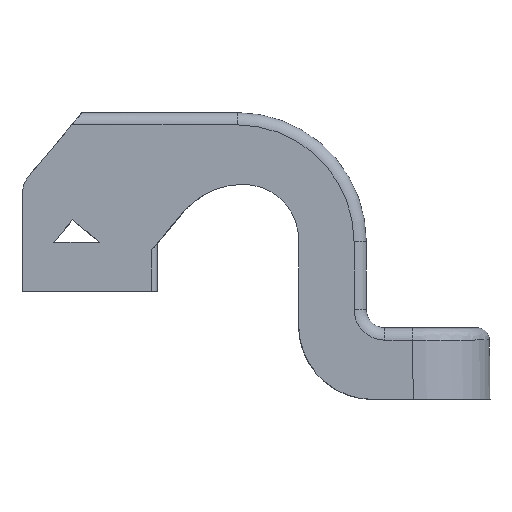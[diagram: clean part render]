
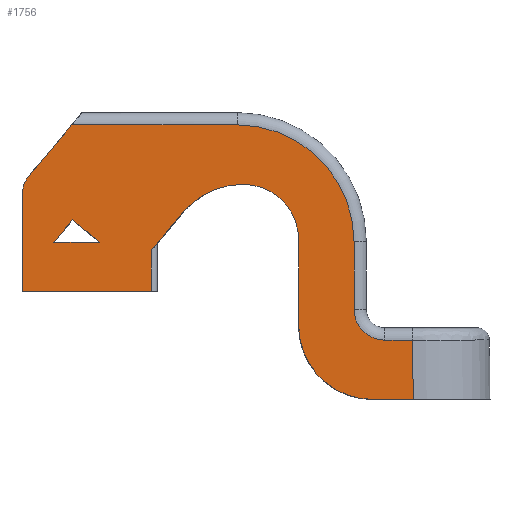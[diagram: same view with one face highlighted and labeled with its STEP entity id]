
A CAD part, front view. The second image highlights one B-rep face of the part: STEP entity #1756.
In plain terms, the highlighted planar face has unit normal (0, -1, 0).
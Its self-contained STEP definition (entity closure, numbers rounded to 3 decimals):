
#76=FACE_BOUND('',#222,.T.);
#84=PLANE('',#1872);
#124=FACE_OUTER_BOUND('',#221,.T.);
#221=EDGE_LOOP('',(#1175,#1176,#1177,#1178,#1179,#1180,#1181,#1182,#1183,
#1184,#1185,#1186,#1187,#1188,#1189,#1190,#1191,#1192));
#222=EDGE_LOOP('',(#1193,#1194,#1195));
#321=CIRCLE('',#1873,12.5);
#322=CIRCLE('',#1874,9.);
#323=CIRCLE('',#1875,12.);
#324=CIRCLE('',#1876,5.);
#325=CIRCLE('',#1877,19.);
#326=CIRCLE('',#1878,5.);
#471=LINE('',#3011,#576);
#472=LINE('',#3013,#577);
#473=LINE('',#3015,#578);
#474=LINE('',#3019,#579);
#475=LINE('',#3023,#580);
#476=LINE('',#3027,#581);
#477=LINE('',#3029,#582);
#478=LINE('',#3031,#583);
#479=LINE('',#3035,#584);
#480=LINE('',#3039,#585);
#481=LINE('',#3041,#586);
#482=LINE('',#3044,#587);
#483=LINE('',#3047,#588);
#484=LINE('',#3049,#589);
#485=LINE('',#3050,#590);
#576=VECTOR('',#2093,10.);
#577=VECTOR('',#2094,10.);
#578=VECTOR('',#2095,10.);
#579=VECTOR('',#2098,10.);
#580=VECTOR('',#2101,10.);
#581=VECTOR('',#2104,10.);
#582=VECTOR('',#2105,12.5);
#583=VECTOR('',#2106,10.);
#584=VECTOR('',#2109,10.);
#585=VECTOR('',#2112,10.);
#586=VECTOR('',#2113,10.);
#587=VECTOR('',#2116,10.);
#588=VECTOR('',#2117,10.);
#589=VECTOR('',#2118,10.);
#590=VECTOR('',#2119,10.);
#698=VERTEX_POINT('',#3009);
#699=VERTEX_POINT('',#3010);
#700=VERTEX_POINT('',#3012);
#701=VERTEX_POINT('',#3014);
#702=VERTEX_POINT('',#3016);
#703=VERTEX_POINT('',#3018);
#704=VERTEX_POINT('',#3020);
#705=VERTEX_POINT('',#3022);
#706=VERTEX_POINT('',#3024);
#707=VERTEX_POINT('',#3026);
#708=VERTEX_POINT('',#3028);
#709=VERTEX_POINT('',#3030);
#710=VERTEX_POINT('',#3032);
#711=VERTEX_POINT('',#3034);
#712=VERTEX_POINT('',#3036);
#713=VERTEX_POINT('',#3038);
#714=VERTEX_POINT('',#3040);
#715=VERTEX_POINT('',#3042);
#716=VERTEX_POINT('',#3045);
#717=VERTEX_POINT('',#3046);
#718=VERTEX_POINT('',#3048);
#887=EDGE_CURVE('',#698,#699,#471,.T.);
#888=EDGE_CURVE('',#700,#699,#472,.T.);
#889=EDGE_CURVE('',#700,#701,#473,.T.);
#890=EDGE_CURVE('',#701,#702,#321,.T.);
#891=EDGE_CURVE('',#702,#703,#474,.T.);
#892=EDGE_CURVE('',#703,#704,#322,.T.);
#893=EDGE_CURVE('',#704,#705,#475,.T.);
#894=EDGE_CURVE('',#705,#706,#323,.T.);
#895=EDGE_CURVE('',#706,#707,#476,.T.);
#896=EDGE_CURVE('',#708,#707,#477,.T.);
#897=EDGE_CURVE('',#709,#708,#478,.T.);
#898=EDGE_CURVE('',#710,#709,#324,.T.);
#899=EDGE_CURVE('',#711,#710,#479,.T.);
#900=EDGE_CURVE('',#712,#711,#325,.T.);
#901=EDGE_CURVE('',#713,#712,#480,.T.);
#902=EDGE_CURVE('',#713,#714,#481,.T.);
#903=EDGE_CURVE('',#715,#714,#326,.T.);
#904=EDGE_CURVE('',#715,#698,#482,.T.);
#905=EDGE_CURVE('',#716,#717,#483,.T.);
#906=EDGE_CURVE('',#717,#718,#484,.T.);
#907=EDGE_CURVE('',#718,#716,#485,.T.);
#1175=ORIENTED_EDGE('',*,*,#887,.T.);
#1176=ORIENTED_EDGE('',*,*,#888,.F.);
#1177=ORIENTED_EDGE('',*,*,#889,.T.);
#1178=ORIENTED_EDGE('',*,*,#890,.T.);
#1179=ORIENTED_EDGE('',*,*,#891,.T.);
#1180=ORIENTED_EDGE('',*,*,#892,.T.);
#1181=ORIENTED_EDGE('',*,*,#893,.T.);
#1182=ORIENTED_EDGE('',*,*,#894,.T.);
#1183=ORIENTED_EDGE('',*,*,#895,.T.);
#1184=ORIENTED_EDGE('',*,*,#896,.F.);
#1185=ORIENTED_EDGE('',*,*,#897,.F.);
#1186=ORIENTED_EDGE('',*,*,#898,.F.);
#1187=ORIENTED_EDGE('',*,*,#899,.F.);
#1188=ORIENTED_EDGE('',*,*,#900,.F.);
#1189=ORIENTED_EDGE('',*,*,#901,.F.);
#1190=ORIENTED_EDGE('',*,*,#902,.T.);
#1191=ORIENTED_EDGE('',*,*,#903,.F.);
#1192=ORIENTED_EDGE('',*,*,#904,.T.);
#1193=ORIENTED_EDGE('',*,*,#905,.T.);
#1194=ORIENTED_EDGE('',*,*,#906,.T.);
#1195=ORIENTED_EDGE('',*,*,#907,.T.);
#1756=ADVANCED_FACE('',(#124,#76),#84,.F.);
#1872=AXIS2_PLACEMENT_3D('',#3008,#2091,#2092);
#1873=AXIS2_PLACEMENT_3D('',#3017,#2096,#2097);
#1874=AXIS2_PLACEMENT_3D('',#3021,#2099,#2100);
#1875=AXIS2_PLACEMENT_3D('',#3025,#2102,#2103);
#1876=AXIS2_PLACEMENT_3D('',#3033,#2107,#2108);
#1877=AXIS2_PLACEMENT_3D('',#3037,#2110,#2111);
#1878=AXIS2_PLACEMENT_3D('',#3043,#2114,#2115);
#2091=DIRECTION('center_axis',(0.,1.,0.));
#2092=DIRECTION('ref_axis',(0.,0.,1.));
#2093=DIRECTION('',(1.,0.,0.));
#2094=DIRECTION('',(0.,0.,-1.));
#2095=DIRECTION('',(0.643,0.,0.766));
#2096=DIRECTION('center_axis',(0.,1.,0.));
#2097=DIRECTION('ref_axis',(-0.423,0.,0.906));
#2098=DIRECTION('',(1.,0.,0.001));
#2099=DIRECTION('center_axis',(0.,1.,0.));
#2100=DIRECTION('ref_axis',(0.707,0.,0.708));
#2101=DIRECTION('',(0.,0.,-1.));
#2102=DIRECTION('center_axis',(0.,-1.,0.));
#2103=DIRECTION('ref_axis',(0.001,0.,-1.));
#2104=DIRECTION('',(1.,0.,0.001));
#2105=DIRECTION('',(0.01,0.,-1.));
#2106=DIRECTION('',(1.,0.,0.));
#2107=DIRECTION('center_axis',(0.,-1.,0.));
#2108=DIRECTION('ref_axis',(-0.707,0.,-0.707));
#2109=DIRECTION('',(0.,0.,-1.));
#2110=DIRECTION('center_axis',(0.,1.,0.));
#2111=DIRECTION('ref_axis',(0.707,0.,0.707));
#2112=DIRECTION('',(1.,0.,0.));
#2113=DIRECTION('',(-0.643,0.,-0.766));
#2114=DIRECTION('center_axis',(0.,1.,0.));
#2115=DIRECTION('ref_axis',(-0.94,0.,0.342));
#2116=DIRECTION('',(0.,0.,-1.));
#2117=DIRECTION('',(0.766,0.,-0.643));
#2118=DIRECTION('',(-1.,0.,0.));
#2119=DIRECTION('',(0.643,0.,0.766));
#3008=CARTESIAN_POINT('Origin',(-9.,3.,22.5));
#3009=CARTESIAN_POINT('',(-20.,3.,40.));
#3010=CARTESIAN_POINT('',(1.,3.,40.));
#3011=CARTESIAN_POINT('',(-4.5,3.,40.));
#3012=CARTESIAN_POINT('',(1.,3.,46.648));
#3013=CARTESIAN_POINT('',(1.,3.,33.75));
#3014=CARTESIAN_POINT('',(6.292,3.,52.955));
#3015=CARTESIAN_POINT('',(-4.406,3.,40.206));
#3016=CARTESIAN_POINT('',(15.85,3.,57.42));
#3017=CARTESIAN_POINT('Origin',(15.868,3.,44.92));
#3018=CARTESIAN_POINT('',(15.987,3.,57.42));
#3019=CARTESIAN_POINT('',(64.119,3.,57.488));
#3020=CARTESIAN_POINT('',(25.,3.,48.42));
#3021=CARTESIAN_POINT('Origin',(16.,3.,48.42));
#3022=CARTESIAN_POINT('',(25.,3.,34.45));
#3023=CARTESIAN_POINT('',(25.,3.,34.093));
#3024=CARTESIAN_POINT('',(37.017,3.,22.45));
#3025=CARTESIAN_POINT('Origin',(37.,3.,34.45));
#3026=CARTESIAN_POINT('',(43.629,3.,22.459));
#3027=CARTESIAN_POINT('',(56.119,3.,22.477));
#3028=CARTESIAN_POINT('',(43.533,3.,32.093));
#3029=CARTESIAN_POINT('',(43.568,3.,28.533));
#3030=CARTESIAN_POINT('',(39.,3.,32.093));
#3031=CARTESIAN_POINT('',(-3.033,3.,32.093));
#3032=CARTESIAN_POINT('',(34.,3.,37.093));
#3033=CARTESIAN_POINT('Origin',(39.,3.,37.093));
#3034=CARTESIAN_POINT('',(34.,3.,48.093));
#3035=CARTESIAN_POINT('',(34.,3.,28.296));
#3036=CARTESIAN_POINT('',(15.,3.,67.093));
#3037=CARTESIAN_POINT('Origin',(15.,3.,48.093));
#3038=CARTESIAN_POINT('',(-11.905,3.,67.093));
#3039=CARTESIAN_POINT('',(0.967,3.,67.093));
#3040=CARTESIAN_POINT('',(-18.83,3.,58.84));
#3041=CARTESIAN_POINT('',(-3.412,3.,77.214));
#3042=CARTESIAN_POINT('',(-20.,3.,55.626));
#3043=CARTESIAN_POINT('Origin',(-15.,3.,55.626));
#3044=CARTESIAN_POINT('',(-20.,3.,31.128));
#3045=CARTESIAN_POINT('',(-11.766,3.,51.659));
#3046=CARTESIAN_POINT('',(-7.404,3.,48.));
#3047=CARTESIAN_POINT('',(-3.775,3.,44.955));
#3048=CARTESIAN_POINT('',(-14.836,3.,48.));
#3049=CARTESIAN_POINT('',(-14.5,3.,48.));
#3050=CARTESIAN_POINT('',(-10.356,3.,53.339));
